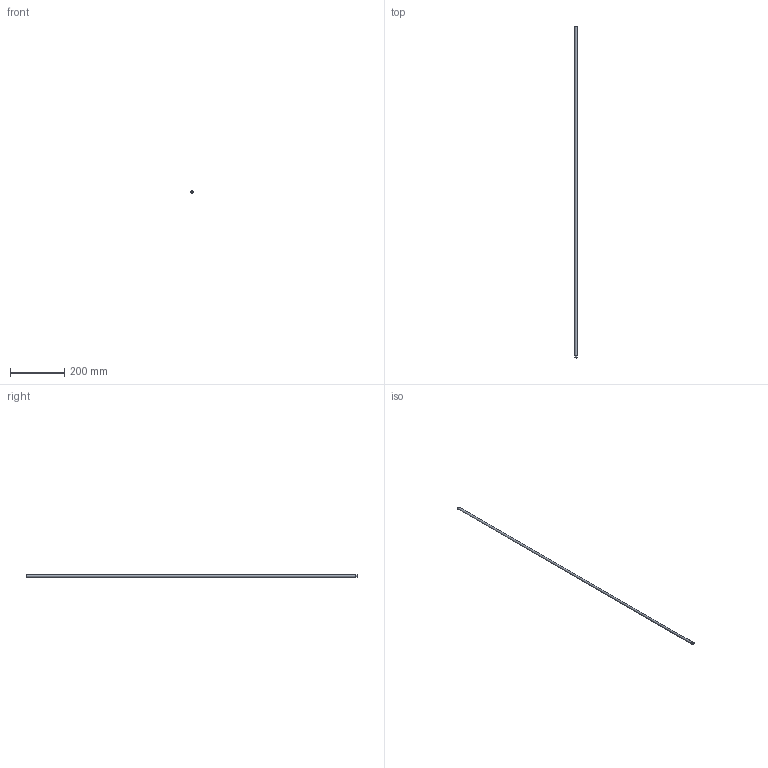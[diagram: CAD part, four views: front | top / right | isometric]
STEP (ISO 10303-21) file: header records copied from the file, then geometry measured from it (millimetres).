
FILE_DESCRIPTION(/* description */ (''),/* implementation_level */ '2;1');
FILE_NAME(/* name */ 'C:/Users/drich/Desktop/HF312T-48 v1.step',/* time_stamp */ '2019-12-30T13:36:08-06:00',/* author */ (''),/* organization */ (''),/* preprocessor_version */ 'ST-DEVELOPER v18',/* originating_system */ 'Autodesk Translation Framework v8.12.0.6',/* authorisation */ '');
FILE_SCHEMA (('AUTOMOTIVE_DESIGN { 1 0 10303 214 3 1 1 }'));
Length unit declared in the file: inch
Products named in the file (1): HF312T-48
Bounding box: 9.58 x 1219.2 x 9.58 mm (x, y, z)
Volume: 9082.3 mm3; surface area: 58463.5 mm2
Topology: 1 solids, 1 shells, 12 faces, 30 edges, 22 vertices
Faces by surface type: plane 4, cylinder 4, torus 3, cone 1
Full cylindrical faces by diameter (mm): 7.315 x1, 7.925 x1, 9.406 x1, 9.576 x1
Entity records: 426 total; most frequent: DIRECTION 81, CARTESIAN_POINT 65, ORIENTED_EDGE 60, AXIS2_PLACEMENT_3D 38, EDGE_CURVE 30, CIRCLE 25, VERTEX_POINT 22, EDGE_LOOP 16
